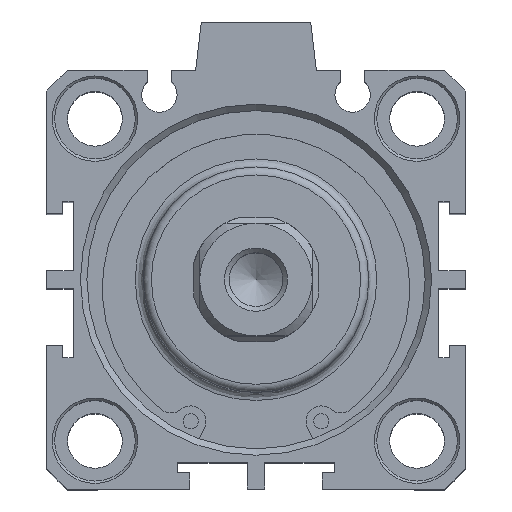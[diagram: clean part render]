
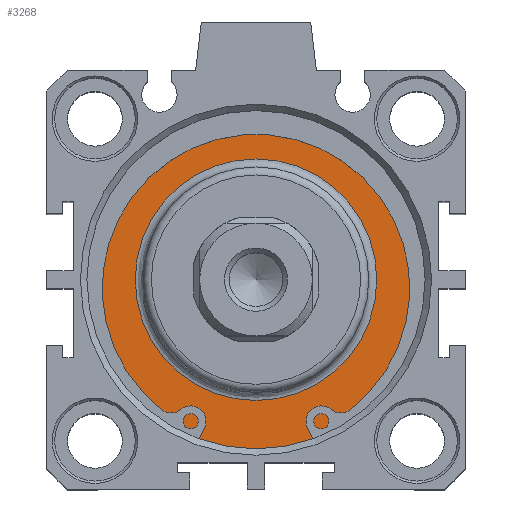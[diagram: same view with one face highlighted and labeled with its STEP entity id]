
A CAD part, top view. The second image highlights one B-rep face of the part: STEP entity #3268.
In plain terms, the highlighted planar face has unit normal (0, 0, 1).
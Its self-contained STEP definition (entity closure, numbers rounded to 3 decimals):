
#3217=CARTESIAN_POINT('',(0.598,16.555,62.4));
#3218=VERTEX_POINT('',#3217);
#3219=CARTESIAN_POINT('',(0.598,1.555,62.4));
#3220=DIRECTION('',(0.0,0.0,1.0));
#3221=DIRECTION('',(0.0,-1.0,0.0));
#3222=AXIS2_PLACEMENT_3D('',#3219,#3220,#3221);
#3223=CIRCLE('',#3222,15.);
#3224=EDGE_CURVE('',#3218,#3218,#3223,.T.);
#3249=CARTESIAN_POINT('',(0.598,19.055,62.4));
#3250=DIRECTION('',(0.0,0.0,1.0));
#3251=DIRECTION('',(1.0,0.0,0.0));
#3252=AXIS2_PLACEMENT_3D('',#3249,#3250,#3251);
#3253=PLANE('',#3252);
#3254=CARTESIAN_POINT('',(0.598,22.555,62.4));
#3255=VERTEX_POINT('',#3254);
#3256=CARTESIAN_POINT('',(0.598,1.555,62.4));
#3257=DIRECTION('',(0.0,0.0,-1.0));
#3258=DIRECTION('',(0.0,1.0,0.0));
#3259=AXIS2_PLACEMENT_3D('',#3256,#3257,#3258);
#3260=CIRCLE('',#3259,21.);
#3261=EDGE_CURVE('',#3255,#3255,#3260,.T.);
#3262=ORIENTED_EDGE('',*,*,#3261,.F.);
#3263=EDGE_LOOP('',(#3262));
#3264=FACE_OUTER_BOUND('',#3263,.T.);
#3265=ORIENTED_EDGE('',*,*,#3224,.F.);
#3266=EDGE_LOOP('',(#3265));
#3267=FACE_BOUND('',#3266,.T.);
#3268=ADVANCED_FACE('',(#3264,#3267),#3253,.T.);
